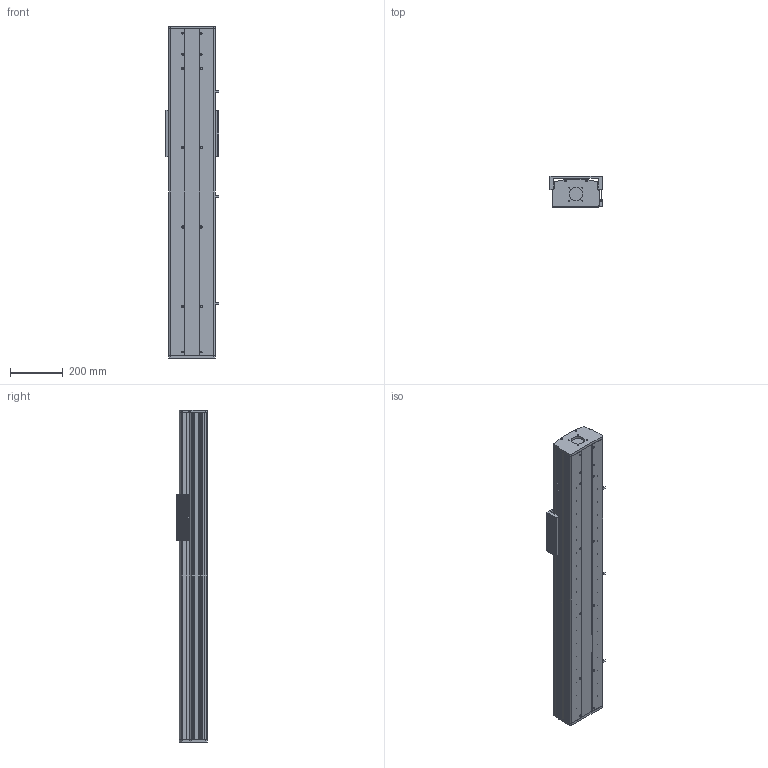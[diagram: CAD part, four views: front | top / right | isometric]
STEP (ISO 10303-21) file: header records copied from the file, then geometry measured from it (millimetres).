
FILE_DESCRIPTION (( 'STEP AP203' ), '1' );
FILE_NAME ('CF175B-C-900-FW.STEP', '2020-07-15T01:55:26', ( 'Micorosoft' ), ( 'Micorosoft' ), 'SwSTEP 2.0', 'SolidWorks 2016', '' );
FILE_SCHEMA (( 'CONFIG_CONTROL_DESIGN' ));
Length unit declared in the file: millimetre
Products named in the file (12): 175B臏倰第-900; EGR20絳寢-900; CF175-2賑雄啣; 75-86-95癹弇羲壽覜茼え; CF-EGH20CA賑輸; 175-2耜啣; 175B珨极嘐隅釱; 175-2盓傅釱; 嫖萇羲壽; CF175-2蹟譫釱; CF175B-C-900-FW; 175B裔啣-900
Assembly tree (17 placements, depth 2):
  CF175B-C-900-FW
    175-2耜啣
    175-2盓傅釱
    CF175-2蹟譫釱
    175B裔啣-900
    175B臏倰第-900
    EGR20絳寢-900  x2
    CF175-2賑雄啣
    75-86-95癹弇羲壽覜茼え
    CF-EGH20CA賑輸  x4
    175B珨极嘐隅釱
    嫖萇羲壽  x3
Bounding box: 201.1 x 116.8 x 1255 mm (x, y, z)
Volume: 9500530.5 mm3; surface area: 2511058 mm2
Topology: 23 solids, 23 shells, 1447 faces, 3762 edges, 2500 vertices
Faces by surface type: plane 733, cylinder 708, cone 4, bspline 2
Entity records: 34820 total; most frequent: DIRECTION 6027, CARTESIAN_POINT 5876, ORIENTED_EDGE 5512, EDGE_CURVE 2756, AXIS2_PLACEMENT_3D 2223, VERTEX_POINT 1832, VECTOR 1581, LINE 1581
